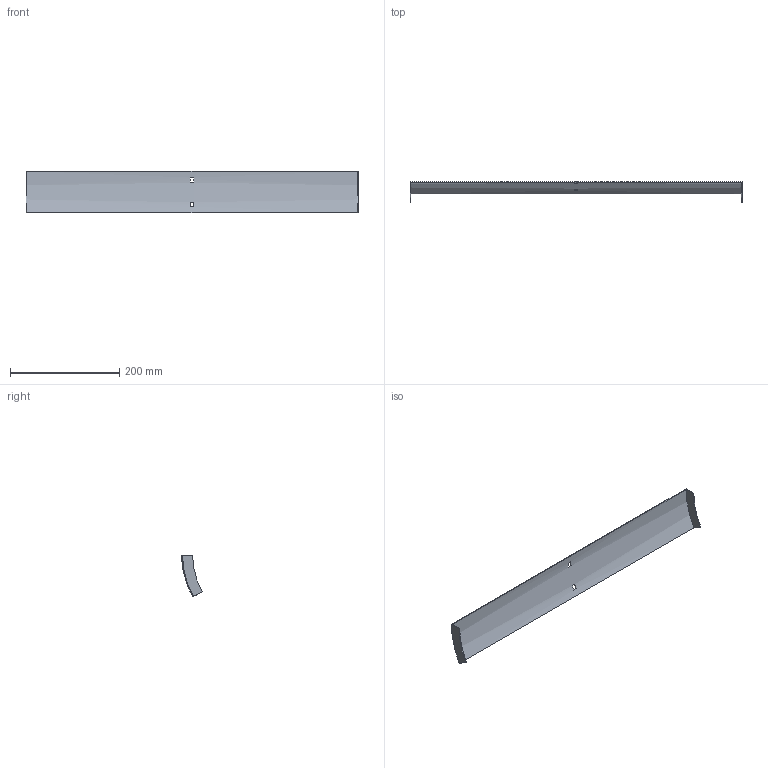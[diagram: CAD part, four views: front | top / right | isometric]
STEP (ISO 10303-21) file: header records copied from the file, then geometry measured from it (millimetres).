
FILE_DESCRIPTION (( 'STEP AP214' ), '1' );
FILE_NAME ('35N1B600.step', '2025-02-21T09:12:13', ( '' ), ( '' ), 'SwSTEP 2.0', 'SolidWorks 2023', '' );
FILE_SCHEMA (( 'AUTOMOTIVE_DESIGN' ));
Length unit declared in the file: millimetre
Products named in the file (1): 35N1B600
Bounding box: 607 x 37.89 x 76.75 mm (x, y, z)
Volume: 76793.2 mm3; surface area: 104627.4 mm2
Topology: 1 solids, 1 shells, 18 faces, 48 edges, 32 vertices
Faces by surface type: plane 14, cylinder 4
Entity records: 599 total; most frequent: DIRECTION 102, CARTESIAN_POINT 99, ORIENTED_EDGE 96, EDGE_CURVE 48, AXIS2_PLACEMENT_3D 35, VECTOR 32, VERTEX_POINT 32, LINE 32
